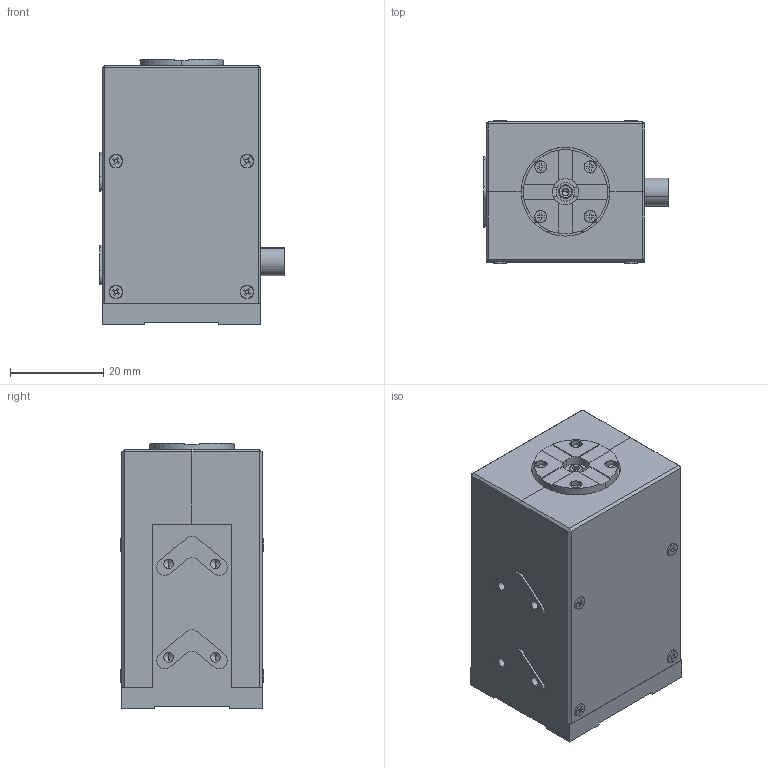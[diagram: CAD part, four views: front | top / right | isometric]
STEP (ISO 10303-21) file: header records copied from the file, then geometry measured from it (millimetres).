
FILE_DESCRIPTION (( 'STEP AP203' ), '1' );
FILE_NAME ('22002.STEP', '2024-12-05T03:18:15', ( 'daohangxitong.com' ), ( 'daohangxitong.com' ), 'SwSTEP 2.0', 'SolidWorks 2016', '' );
FILE_SCHEMA (( 'CONFIG_CONTROL_DESIGN' ));
Length unit declared in the file: millimetre
Products named in the file (1): 22002
Bounding box: 39.5 x 30.7 x 56.8 mm (x, y, z)
Volume: 41873.5 mm3; surface area: 21990.3 mm2
Topology: 19 solids, 19 shells, 580 faces, 1456 edges, 922 vertices
Faces by surface type: plane 328, cylinder 180, cone 70, torus 2
Entity records: 17211 total; most frequent: DIRECTION 3020, CARTESIAN_POINT 2939, ORIENTED_EDGE 2872, EDGE_CURVE 1436, VECTOR 1014, LINE 1014, AXIS2_PLACEMENT_3D 1003, VERTEX_POINT 922
